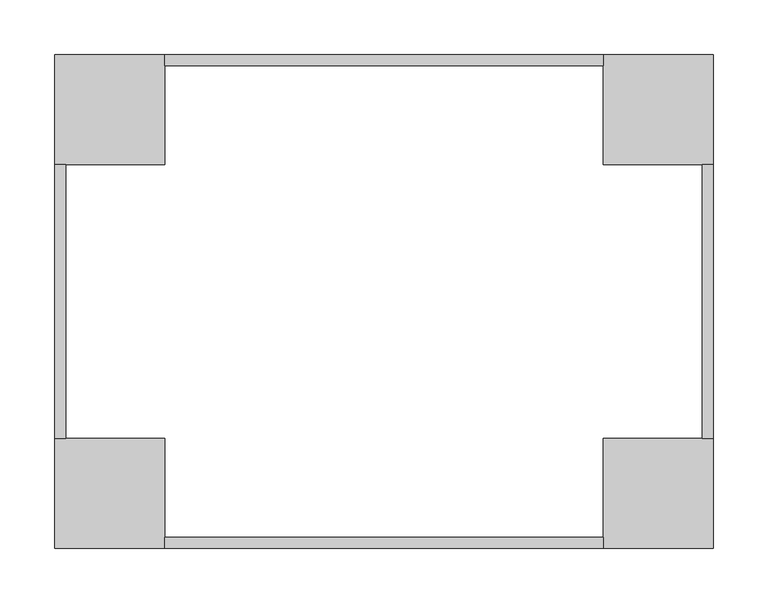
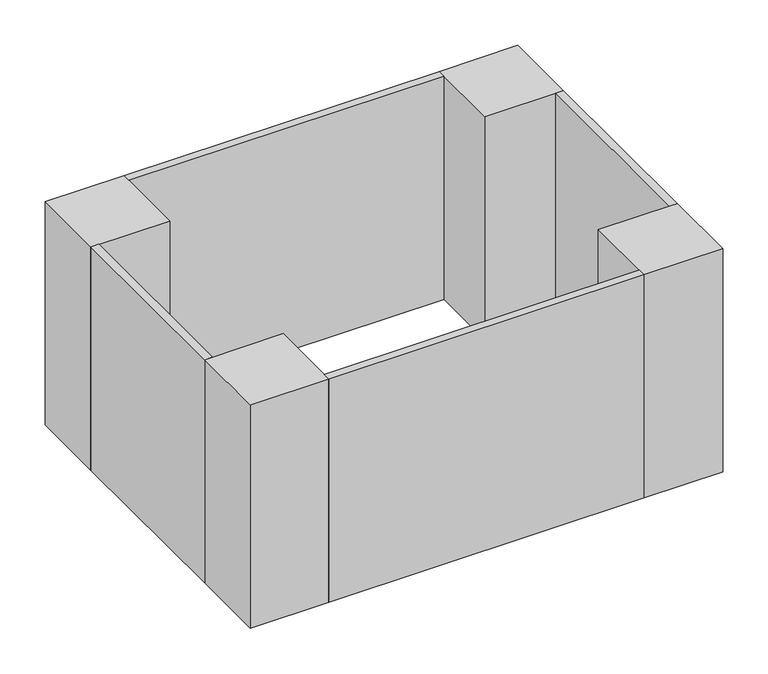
"""IFC4 building model written with IfcOpenShell, lengths in millimetres: proxy geometry, ▲EE_Основание : заводское_300_мм."""

from ifc_helpers import new_model, si_unit, origin, origin_with_axes, place, context, project, spatial, polyline, outline, extrude, source, transform, mapped, element, save


def electrical_equipment_d66dbdba(model_context):
    return source(origin(), model_context, "Body", "SweptSolid", [
        extrude(outline(polyline([(200.0, 0.0), (200.0, -10.0), (-200.0, -10.0), (-200.0, 0.0), (200.0, 0.0)])), origin_with_axes(), (0.0, 0.0, 1.0), 300.0),
        extrude(outline(polyline([(-290.0, -100.0), (-290.0, -350.0), (-300.0, -350.0), (-300.0, -100.0), (-290.0, -100.0)])), origin_with_axes(), (0.0, 0.0, 1.0), 300.0),
        extrude(outline(polyline([(200.0, -450.0), (-200.0, -450.0), (-200.0, -440.0), (200.0, -440.0), (200.0, -450.0)])), origin_with_axes(), (0.0, 0.0, 1.0), 300.0),
        extrude(outline(polyline([(290.0, -350.0), (290.0, -100.0), (300.0, -100.0), (300.0, -350.0), (290.0, -350.0)])), origin_with_axes(), (0.0, 0.0, 1.0), 300.0),
        extrude(outline(polyline([(-200.0, 0.0), (-200.0, -100.0), (-300.0, -100.0), (-300.0, 0.0), (-200.0, 0.0)])), origin_with_axes(), (0.0, 0.0, 1.0), 300.0),
        extrude(outline(polyline([(200.0, 0.0), (300.0, 0.0), (300.0, -100.0), (200.0, -100.0), (200.0, 0.0)])), origin_with_axes(), (0.0, 0.0, 1.0), 300.0),
        extrude(outline(polyline([(-200.0, -350.0), (-200.0, -450.0), (-300.0, -450.0), (-300.0, -350.0), (-200.0, -350.0)])), origin_with_axes(), (0.0, 0.0, 1.0), 300.0),
        extrude(outline(polyline([(200.0, -450.0), (200.0, -350.0), (300.0, -350.0), (300.0, -450.0), (200.0, -450.0)])), origin_with_axes(), (0.0, 0.0, 1.0), 300.0),
    ])


if __name__ == "__main__":
    model = new_model("IFC4")
    model_context = context("Model", 3, world=origin())
    ifc_project = project(units=[si_unit("LENGTHUNIT", "METRE", prefix="MILLI")], contexts=[model_context])
    site = spatial("IfcSite", under=ifc_project)
    building = spatial("IfcBuilding", under=site)
    placement = place(None, origin())
    electrical_equipment_shape = electrical_equipment_d66dbdba(model_context)
    element("IfcBuildingElementProxy", 1, Name="▲EE_Основание : заводское_300_мм", ObjectType="▲EE_Основание : заводское_300_мм", at=placement, inside=building, context=model_context, shape_type="MappedRepresentation", body=[
        mapped(electrical_equipment_shape, transform((0.0, 0.0, 0.0), x_axis=(1.0, 0.0, 0.0), y_axis=(0.0, 1.0, 0.0), z_axis=(0.0, 0.0, 1.0))),
    ])
    save(model, "model.ifc")
